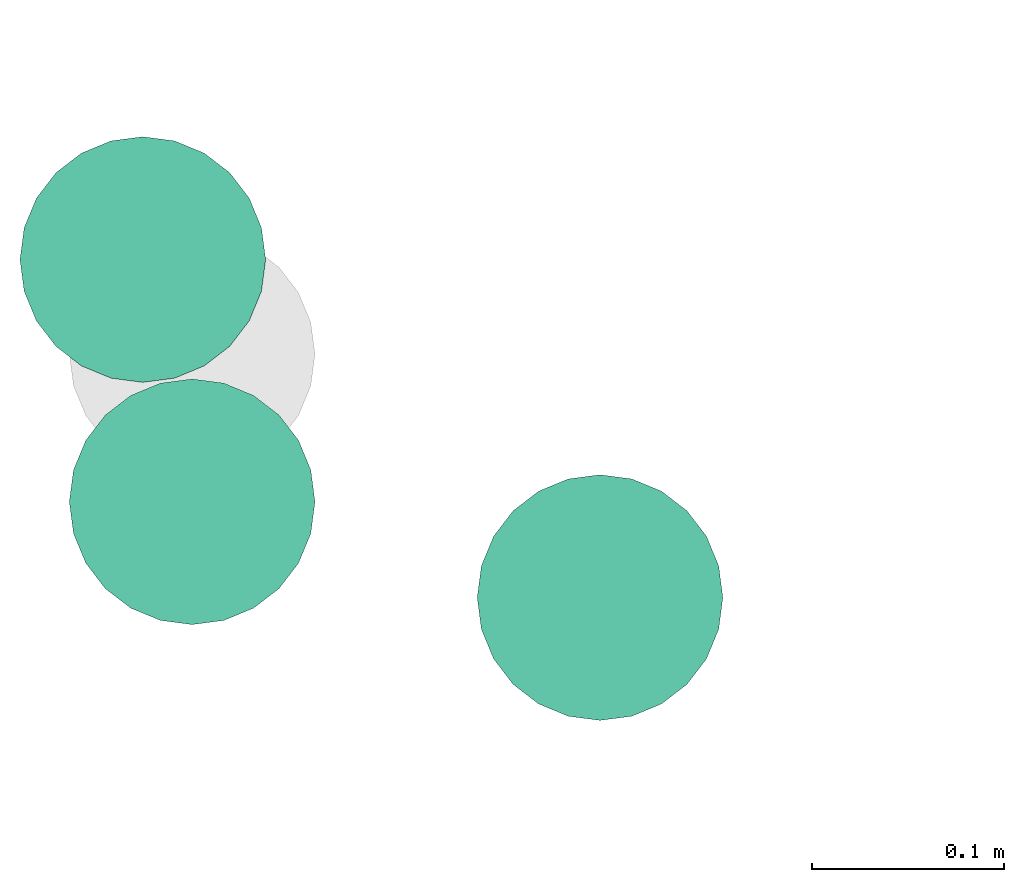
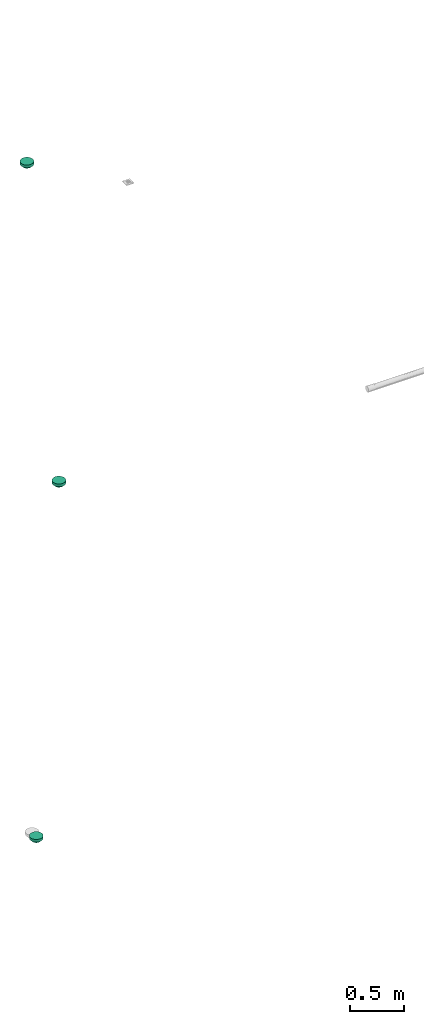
# One storey, part 50 of 153: 3 flow terminals.
"""IFC2X3 building model written with IfcOpenShell, lengths in metres."""

from ifc_helpers import new_model, entity, si_unit, converted_unit, derived_unit, direction, frame, origin, place, context, subcontext, project, spatial, faceted_brep, source, transform, mapped, type_object, type_shapes, element, save


model = new_model("IFC2X3")

# Units and contexts
model_context = context("Model", 3, precision=1e-05, world=origin(), true_north=direction((6.12303176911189e-17, 1.0)))
body_context = subcontext(model_context, "Body", "Model", "MODEL_VIEW")
ifc_project = project(units=[si_unit("LENGTHUNIT", "METRE"), si_unit("AREAUNIT", "SQUARE_METRE"), si_unit("VOLUMEUNIT", "CUBIC_METRE"), converted_unit("PLANEANGLEUNIT", "DEGREE", entity("IfcRatioMeasure", 0.0174532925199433), si_unit("PLANEANGLEUNIT", "RADIAN"), dimensions=[0, 0, 0, 0, 0, 0, 0]), si_unit("MASSUNIT", "GRAM", prefix="KILO"), derived_unit("MASSDENSITYUNIT", [(si_unit("MASSUNIT", "GRAM", prefix="KILO"), 1), (si_unit("LENGTHUNIT", "METRE"), -3)]), si_unit("TIMEUNIT", "SECOND"), si_unit("FREQUENCYUNIT", "HERTZ"), si_unit("THERMODYNAMICTEMPERATUREUNIT", "DEGREE_CELSIUS"), derived_unit("THERMALTRANSMITTANCEUNIT", [(si_unit("MASSUNIT", "GRAM", prefix="KILO"), 1), (si_unit("THERMODYNAMICTEMPERATUREUNIT", "KELVIN"), -1), (si_unit("TIMEUNIT", "SECOND"), -3)]), derived_unit("VOLUMETRICFLOWRATEUNIT", [(si_unit("LENGTHUNIT", "METRE"), 3), (si_unit("TIMEUNIT", "SECOND"), -1)]), si_unit("ELECTRICCURRENTUNIT", "AMPERE"), si_unit("ELECTRICVOLTAGEUNIT", "VOLT"), si_unit("POWERUNIT", "WATT"), si_unit("FORCEUNIT", "NEWTON"), si_unit("ILLUMINANCEUNIT", "LUX"), si_unit("LUMINOUSFLUXUNIT", "LUMEN"), si_unit("LUMINOUSINTENSITYUNIT", "CANDELA"), derived_unit("USERDEFINED", [(si_unit("MASSUNIT", "GRAM", prefix="KILO"), -1), (si_unit("LENGTHUNIT", "METRE"), -2), (si_unit("TIMEUNIT", "SECOND"), 3), (si_unit("LUMINOUSFLUXUNIT", "LUMEN"), 1)]), derived_unit("LINEARVELOCITYUNIT", [(si_unit("LENGTHUNIT", "METRE"), 1), (si_unit("TIMEUNIT", "SECOND"), -1)]), si_unit("PRESSUREUNIT", "PASCAL"), derived_unit("USERDEFINED", [(si_unit("LENGTHUNIT", "METRE"), -2), (si_unit("MASSUNIT", "GRAM", prefix="KILO"), 1), (si_unit("TIMEUNIT", "SECOND"), -2)])], contexts=[model_context])

# Site, building, storey
site_placement = place(None, origin())
site = spatial("IfcSite", under=ifc_project, at=site_placement, Name="Default", CompositionType="ELEMENT")
building_placement = place(site_placement, origin())
building = spatial("IfcBuilding", under=site, at=building_placement, CompositionType="ELEMENT")
storey_placement = place(building_placement, frame((0.0, 0.0, -4.62)))
storey = spatial("IfcBuildingStorey", under=building, at=storey_placement, Name="S02", CompositionType="ELEMENT", Elevation=-4.62)

# Flow terminals
light_fixture_type = type_object("IfcLightFixtureType", Name="Détecteur 360°", PredefinedType="NOTDEFINED")
shared_shape = source(origin(), body_context, "Body", "Brep", [
    faceted_brep([(0.0, -0.0397165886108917, 0.0531256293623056), (0.0, -0.034524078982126, 0.0563702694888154), (-0.0175153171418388, -0.0435914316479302, 0.0478512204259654), (-0.0194029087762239, -0.000878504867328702, 0.0644483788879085), (0.0, 0.0, 0.0669999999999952), (0.0, 0.00603476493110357, 0.0659648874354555), (-0.0174057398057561, -0.0159851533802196, 0.0630502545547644), (-0.0366619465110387, -0.0127227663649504, 0.0549213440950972), (-0.026998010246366, -0.0195753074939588, 0.0584711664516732), (-0.0202403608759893, -0.0335607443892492, 0.054639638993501), (-0.0359767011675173, -0.0348394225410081, 0.0444249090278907), (-0.0276843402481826, -0.0401006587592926, 0.0459804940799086), (-0.0133088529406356, -0.0517577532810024, 0.0400582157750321), (-0.0172617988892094, -0.0486391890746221, 0.042533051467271), (-0.0256912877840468, -0.0533485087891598, 0.0299999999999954), (-0.0462941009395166, -0.0369183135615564, 0.0299999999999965), (0.0, -0.0241390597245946, 0.0628595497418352), (-0.0186245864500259, -0.0267295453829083, 0.0589100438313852), (-0.0139070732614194, -0.0374370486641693, 0.0540817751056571), (0.0, 0.0449090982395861, 0.049880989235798), (-0.0172618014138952, 0.0486391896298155, 0.0425330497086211), (0.0, 0.0397165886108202, 0.0531256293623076), (-0.0186245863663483, 0.0267295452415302, 0.0589100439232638), (-0.0202403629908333, 0.0335607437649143, 0.054639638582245), (-0.0353547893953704, 0.0284533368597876, 0.0494330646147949), (0.0, 0.0120695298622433, 0.0649297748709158), (-0.0249385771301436, 0.0204731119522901, 0.0590841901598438), (-0.0191783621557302, 0.0150189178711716, 0.062775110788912), (-0.0465404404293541, -0.0196510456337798, 0.0438984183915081), (-0.052010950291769, -0.0250471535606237, 0.029999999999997), (-0.0453471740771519, -0.0286501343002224, 0.0397747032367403), (-0.0365036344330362, -0.0226255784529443, 0.0516441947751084), (-0.0175153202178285, 0.0435914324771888, 0.0478512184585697), (-0.0359926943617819, 0.0451334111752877, 0.0299999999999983), (-0.0276843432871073, 0.0401006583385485, 0.0459804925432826), (-0.00849704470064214, -0.0572729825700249, 0.0299999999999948), (0.0, -0.0592123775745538, 0.0299999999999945), (0.0, -0.0545512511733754, 0.0364787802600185), (0.0, -0.049890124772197, 0.0429575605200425), (-0.0169940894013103, -0.055333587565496, 0.0299999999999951), (-0.0359767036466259, 0.0348394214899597, 0.0444249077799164), (-0.025691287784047, 0.0533485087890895, 0.0299999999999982), (-0.0308419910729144, 0.0492409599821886, 0.0299999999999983), (-0.0130265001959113, 0.0514867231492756, 0.040526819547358), (-0.0169940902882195, 0.0553335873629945, 0.029999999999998), (0.0, 0.0498901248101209, 0.0429575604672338), (-0.0353547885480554, -0.0284533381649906, 0.0494330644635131), (0.0, 0.0181042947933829, 0.0638946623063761), (-0.0473669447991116, -0.00128092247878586, 0.0474310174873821), (-0.0485435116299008, -0.00908961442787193, 0.0452357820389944), (-0.0366597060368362, -0.0032867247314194, 0.0563153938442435), (-0.0226425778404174, -0.0107553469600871, 0.0624973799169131), (0.0, -0.00603476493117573, 0.0659648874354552), (0.0, 0.0293315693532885, 0.0596149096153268), (-0.0139070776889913, 0.0374370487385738, 0.0540817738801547), (-0.0449600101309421, 0.018422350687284, 0.0461366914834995), (-0.0453471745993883, 0.0286501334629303, 0.0397747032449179), (-0.0476906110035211, 0.00670602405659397, 0.0466053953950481), (-0.0577277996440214, 0.0131759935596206, 0.0299999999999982), (-0.0577277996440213, 0.00658799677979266, 0.029999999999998), (-0.0577277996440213, 0.0, 0.0299999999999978), (0.0, -0.0449090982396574, 0.0498809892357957), (-0.0308419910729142, -0.049240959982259, 0.0299999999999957), (-0.0359926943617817, -0.0451334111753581, 0.029999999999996), (0.0, 0.0345240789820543, 0.0563702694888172), (-0.0411433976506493, 0.0410258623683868, 0.0299999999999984), (-0.0462941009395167, 0.0369183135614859, 0.0299999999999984), (-0.0491525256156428, -0.03098273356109, 0.0299999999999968), (-0.0577277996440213, -0.0131759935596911, 0.0299999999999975), (0.0, -0.018104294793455, 0.0638946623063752), (-0.0377433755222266, 0.0044838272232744, 0.0554913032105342), (-0.0577277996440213, -0.00658799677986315, 0.0299999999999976), (-0.0385149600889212, 0.0124844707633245, 0.0536578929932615), (-0.0491525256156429, 0.0309827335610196, 0.0299999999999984), (-0.0548693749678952, 0.0191115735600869, 0.0299999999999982), (0.0, 0.0241390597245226, 0.0628595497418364), (-0.014625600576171, 0.0100436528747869, 0.0649170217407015), (-0.0271766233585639, 0.00920278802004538, 0.0609170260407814), (0.0, -0.0120695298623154, 0.0649297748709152), (-0.0520109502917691, 0.0250471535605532, 0.0299999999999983), (-0.0411433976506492, -0.0410258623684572, 0.0299999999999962), (-0.0548693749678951, -0.0191115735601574, 0.0299999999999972), (0.0, -0.0293315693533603, 0.0596149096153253), (0.0, 0.0545512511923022, 0.0364787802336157), (0.0, 0.0592123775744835, 0.0299999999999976), (-0.00849704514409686, 0.057272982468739, 0.0299999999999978), (-0.0127455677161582, 0.0563032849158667, 0.0299999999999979), (-0.0213426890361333, 0.054341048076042, 0.0299999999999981), (0.0175153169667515, 0.0435914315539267, 0.0478512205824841), (0.0194029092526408, 0.000878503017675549, 0.0644483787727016), (0.017405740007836, 0.0159851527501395, 0.0630502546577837), (0.0366619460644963, 0.012722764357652, 0.0549213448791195), (0.0269980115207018, 0.0195753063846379, 0.0584711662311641), (0.0202403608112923, 0.0335607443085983, 0.0546396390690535), (0.0359767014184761, 0.0348394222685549, 0.0444249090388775), (0.0276843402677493, 0.0401006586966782, 0.0459804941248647), (0.0133088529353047, 0.0517577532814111, 0.0400582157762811), (0.0172617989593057, 0.0486391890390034, 0.0425330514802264), (0.0256912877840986, 0.0533485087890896, 0.0299999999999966), (0.0462941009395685, 0.0369183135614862, 0.0299999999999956), (0.00849704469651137, 0.0572729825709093, 0.0299999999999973), (0.0169940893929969, 0.0553335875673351, 0.029999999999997), (0.0172617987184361, -0.0486391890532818, 0.0425330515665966), (0.025691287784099, -0.0533485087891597, 0.0299999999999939), (0.0308419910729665, -0.0492409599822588, 0.0299999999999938), (0.0175153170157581, -0.0435914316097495, 0.0478512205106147), (0.0186245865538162, -0.0267295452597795, 0.0589100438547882), (0.0202403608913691, -0.03356074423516, 0.0546396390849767), (0.0353547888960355, -0.0284533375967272, 0.0494330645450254), (0.0249385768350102, -0.0204731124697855, 0.0590841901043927), (0.0191783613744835, -0.0150189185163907, 0.062775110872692), (0.0465404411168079, 0.0196510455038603, 0.0438984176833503), (0.0577277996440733, 0.0131759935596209, 0.0299999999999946), (0.0548693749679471, 0.0191115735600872, 0.0299999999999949), (0.0520109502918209, 0.0250471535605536, 0.0299999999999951), (0.0365036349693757, 0.0226255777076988, 0.0516441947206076), (0.0186245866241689, 0.0267295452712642, 0.0589100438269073), (0.0359926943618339, -0.0451334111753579, 0.0299999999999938), (0.0276843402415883, -0.0401006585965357, 0.0459804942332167), (0.0139070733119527, 0.0374370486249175, 0.0540817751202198), (0.0359767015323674, -0.0348394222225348, 0.044424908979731), (0.0226425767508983, 0.0107553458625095, 0.0624973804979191), (0.0169940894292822, -0.0553335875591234, 0.0299999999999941), (0.0130264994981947, -0.0514867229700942, 0.0405268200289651), (0.0453471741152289, 0.0286501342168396, 0.039774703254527), (0.0353547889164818, 0.0284533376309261, 0.0494330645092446), (0.0473669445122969, 0.00128092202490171, 0.0474310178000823), (0.0485435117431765, 0.00908961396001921, 0.0452357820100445), (0.0366597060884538, 0.00328672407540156, 0.0563153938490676), (0.0139070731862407, -0.0374370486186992, 0.0540817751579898), (0.0449600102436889, -0.018422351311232, 0.0461366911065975), (0.0453471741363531, -0.0286501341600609, 0.039774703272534), (0.0476906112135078, -0.00670602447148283, 0.046605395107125), (0.0577277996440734, -0.0131759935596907, 0.0299999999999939), (0.0577277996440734, -0.00658799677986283, 0.0299999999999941), (0.0577277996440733, 0.0, 0.0299999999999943), (0.0308419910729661, 0.0492409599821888, 0.0299999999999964), (0.0359926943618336, 0.0451334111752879, 0.0299999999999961), (0.0411433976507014, -0.041025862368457, 0.0299999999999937), (0.0462941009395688, -0.0369183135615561, 0.0299999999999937), (0.0491525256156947, 0.0309827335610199, 0.0299999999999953), (0.037743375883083, -0.00448382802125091, 0.0554913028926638), (0.0577277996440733, 0.00658799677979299, 0.0299999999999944), (0.0385149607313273, -0.0124844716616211, 0.0536578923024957), (0.049152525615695, -0.0309827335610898, 0.0299999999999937), (0.0548693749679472, -0.0191115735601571, 0.0299999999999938), (0.0146256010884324, -0.0100436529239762, 0.0649170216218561), (0.0271766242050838, -0.00920278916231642, 0.0609170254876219), (0.0520109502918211, -0.0250471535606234, 0.0299999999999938), (0.041143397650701, 0.0410258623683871, 0.0299999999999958), (0.00849704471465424, -0.0572729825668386, 0.0299999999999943), (0.0127455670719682, -0.056303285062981, 0.0299999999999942), (0.0213426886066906, -0.0543410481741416, 0.029999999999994), (0.0, 0.0, 0.0299999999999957)], [[[0, 1, 2]], [[3, 4, 5]], [[6, 7, 8]], [[9, 10, 11]], [[12, 13, 14]], [[10, 15, 11]], [[9, 16, 17]], [[18, 9, 11]], [[19, 20, 21]], [[22, 23, 24]], [[25, 26, 27]], [[28, 29, 30]], [[8, 31, 17]], [[32, 33, 34]], [[35, 36, 37, 38, 39]], [[23, 40, 24]], [[20, 41, 42]], [[19, 43, 20]], [[44, 43, 45]], [[20, 32, 21]], [[30, 10, 46]], [[22, 26, 47]], [[48, 49, 50]], [[3, 51, 52]], [[53, 54, 23]], [[55, 24, 56]], [[57, 58, 59, 60]], [[13, 61, 0]], [[13, 0, 2]], [[2, 62, 13]], [[18, 2, 1]], [[2, 11, 63]], [[32, 64, 21]], [[32, 42, 33]], [[34, 33, 65, 66]], [[20, 42, 32]], [[54, 32, 34]], [[28, 30, 31]], [[10, 67, 15]], [[49, 68, 28]], [[8, 17, 69]], [[7, 6, 51]], [[28, 31, 7]], [[57, 48, 70]], [[58, 57, 55]], [[48, 71, 49]], [[70, 48, 50]], [[3, 50, 51]], [[55, 26, 24]], [[72, 57, 70]], [[26, 55, 72]], [[56, 40, 73]], [[56, 74, 55]], [[47, 75, 22]], [[52, 4, 3]], [[7, 50, 49]], [[5, 76, 3]], [[70, 3, 77]], [[51, 78, 52]], [[26, 25, 47]], [[76, 25, 27]], [[23, 22, 75]], [[26, 22, 24]], [[53, 64, 54]], [[23, 34, 40]], [[66, 40, 34]], [[40, 66, 73]], [[56, 73, 79, 74]], [[72, 27, 26]], [[40, 56, 24]], [[23, 75, 53]], [[69, 17, 16]], [[78, 6, 69]], [[46, 10, 9]], [[46, 9, 17]], [[50, 7, 51]], [[30, 29, 67]], [[80, 63, 11, 15]], [[28, 68, 81, 29]], [[10, 30, 67]], [[30, 46, 31]], [[82, 18, 1]], [[82, 16, 9]], [[28, 7, 49]], [[12, 39, 38]], [[61, 13, 12]], [[83, 84, 85, 86, 44, 45]], [[43, 41, 20]], [[44, 87, 41, 43]], [[32, 54, 64]], [[23, 54, 34]], [[9, 18, 82]], [[2, 18, 11]], [[39, 12, 14]], [[38, 61, 12]], [[62, 2, 63]], [[62, 14, 13]], [[17, 31, 46]], [[7, 31, 8]], [[48, 60, 71]], [[71, 68, 49]], [[60, 48, 57]], [[3, 70, 50]], [[72, 70, 77]], [[72, 77, 27]], [[55, 57, 72]], [[74, 58, 55]], [[76, 27, 77]], [[3, 76, 77]], [[25, 76, 5]], [[69, 6, 8]], [[78, 51, 6]], [[45, 43, 19]], [[21, 64, 88]], [[89, 4, 52]], [[90, 91, 92]], [[93, 94, 95]], [[96, 97, 98]], [[94, 99, 95]], [[100, 84, 83, 45, 101]], [[102, 103, 104]], [[102, 105, 0]], [[106, 107, 108]], [[78, 109, 110]], [[111, 112, 113, 114]], [[92, 115, 116]], [[105, 117, 118]], [[119, 93, 95]], [[107, 120, 108]], [[89, 121, 5]], [[122, 123, 38]], [[61, 123, 102]], [[93, 75, 116]], [[124, 94, 125]], [[106, 109, 69]], [[126, 127, 128]], [[61, 102, 0]], [[82, 129, 107]], [[130, 108, 131]], [[132, 133, 134, 135]], [[97, 19, 21]], [[97, 21, 88]], [[88, 136, 97]], [[119, 88, 64]], [[88, 95, 137]], [[105, 1, 0]], [[105, 104, 117]], [[118, 117, 138, 139]], [[102, 104, 105]], [[129, 105, 118]], [[111, 124, 115]], [[94, 140, 99]], [[127, 112, 111]], [[92, 116, 47]], [[91, 90, 121]], [[111, 115, 91]], [[132, 126, 141]], [[133, 132, 130]], [[126, 142, 127]], [[141, 126, 128]], [[89, 128, 121]], [[130, 109, 108]], [[143, 132, 141]], [[109, 130, 143]], [[131, 120, 144]], [[131, 145, 130]], [[69, 16, 106]], [[5, 4, 89]], [[91, 128, 127]], [[52, 146, 89]], [[141, 89, 147]], [[121, 25, 5]], [[109, 78, 69]], [[146, 78, 110]], [[107, 106, 16]], [[109, 106, 108]], [[82, 1, 129]], [[107, 118, 120]], [[139, 120, 118]], [[120, 139, 144]], [[131, 144, 148, 145]], [[143, 110, 109]], [[120, 131, 108]], [[107, 16, 82]], [[47, 116, 75]], [[25, 90, 47]], [[125, 94, 93]], [[125, 93, 116]], [[128, 91, 121]], [[124, 114, 140]], [[149, 137, 95, 99]], [[111, 114, 124]], [[94, 124, 140]], [[124, 125, 115]], [[53, 119, 64]], [[53, 75, 93]], [[111, 91, 127]], [[96, 101, 45]], [[19, 97, 96]], [[37, 36, 150, 151, 122, 38]], [[123, 103, 102]], [[122, 152, 103, 123]], [[105, 129, 1]], [[107, 129, 118]], [[93, 119, 53]], [[88, 119, 95]], [[101, 96, 98]], [[45, 19, 96]], [[136, 88, 137]], [[136, 98, 97]], [[116, 115, 125]], [[91, 115, 92]], [[126, 135, 142]], [[142, 112, 127]], [[135, 126, 132]], [[89, 141, 128]], [[143, 141, 147]], [[143, 147, 110]], [[130, 132, 143]], [[145, 133, 130]], [[146, 110, 147]], [[89, 146, 147]], [[78, 146, 52]], [[47, 90, 92]], [[25, 121, 90]], [[38, 123, 61]], [[153, 66, 65]], [[153, 65, 33]], [[153, 33, 42]], [[153, 42, 41]], [[153, 41, 87]], [[153, 73, 66]], [[153, 79, 73]], [[153, 74, 79]], [[153, 58, 74]], [[153, 87, 44]], [[153, 44, 86]], [[153, 86, 85]], [[153, 85, 84]], [[153, 84, 100]], [[153, 59, 58]], [[153, 60, 59]], [[153, 71, 60]], [[153, 68, 71]], [[153, 81, 68]], [[153, 29, 81]], [[153, 67, 29]], [[153, 15, 67]], [[153, 80, 15]], [[153, 63, 80]], [[153, 62, 63]], [[153, 14, 62]], [[153, 39, 14]], [[153, 35, 39]], [[153, 36, 35]], [[153, 100, 101]], [[153, 101, 98]], [[153, 98, 136]], [[153, 136, 137]], [[153, 137, 149]], [[153, 149, 99]], [[153, 99, 140]], [[153, 140, 114]], [[153, 114, 113]], [[153, 113, 112]], [[153, 112, 142]], [[153, 150, 36]], [[153, 151, 150]], [[153, 122, 151]], [[153, 152, 122]], [[153, 103, 152]], [[153, 104, 103]], [[153, 117, 104]], [[153, 138, 117]], [[153, 139, 138]], [[153, 144, 139]], [[153, 148, 144]], [[153, 145, 148]], [[153, 133, 145]], [[153, 142, 135]], [[153, 135, 134]], [[153, 134, 133]]]),
    faceted_brep([(0.0165644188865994, -0.0618192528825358, 0.029999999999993), (0.0320000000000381, -0.0554256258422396, 0.0299999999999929), (0.0452548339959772, -0.0452548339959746, 0.0299999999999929), (0.0554256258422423, -0.0320000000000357, 0.029999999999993), (0.0618192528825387, -0.016564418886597, 0.0299999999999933), (0.0640000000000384, 0.0, 0.0299999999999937), (0.0618192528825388, 0.016564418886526, 0.0299999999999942), (0.0554256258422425, 0.0319999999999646, 0.0299999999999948), (0.0452548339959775, 0.0452548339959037, 0.0299999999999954), (0.0320000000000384, 0.0554256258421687, 0.0299999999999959), (0.0165644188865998, 0.061819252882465, 0.0299999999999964), (0.0, 0.0639999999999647, 0.0299999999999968), (-0.0165644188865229, 0.061819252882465, 0.0299999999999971), (-0.0319999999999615, 0.0554256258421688, 0.0299999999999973), (-0.0452548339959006, 0.0452548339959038, 0.0299999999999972), (-0.0554256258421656, 0.0319999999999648, 0.0299999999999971), (-0.0618192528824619, 0.0165644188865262, 0.0299999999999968), (-0.0639999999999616, 0.0, 0.0299999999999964), (-0.061819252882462, -0.0165644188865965, 0.0299999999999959), (-0.0554256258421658, -0.0320000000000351, 0.0299999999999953), (-0.0452548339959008, -0.0452548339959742, 0.0299999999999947), (-0.0319999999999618, -0.0554256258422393, 0.0299999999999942), (-0.0165644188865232, -0.0618192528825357, 0.0299999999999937), (0.0, -0.0640000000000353, 0.0299999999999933), (0.0165644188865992, 0.0618192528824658, 0.0), (0.0320000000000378, 0.0554256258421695, 0.0), (0.0452548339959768, 0.0452548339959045, 0.0), (0.0554256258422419, 0.0319999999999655, 0.0), (0.0618192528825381, 0.0165644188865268, 0.0), (0.0640000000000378, 0.0, 0.0), (0.061819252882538, -0.0165644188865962, 0.0), (0.0554256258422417, -0.0320000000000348, 0.0), (0.0452548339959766, -0.0452548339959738, 0.0), (0.0320000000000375, -0.0554256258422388, 0.0), (0.0165644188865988, -0.061819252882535, 0.0), (0.0, -0.0640000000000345, 0.0), (-0.0165644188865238, -0.0618192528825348, 0.0), (-0.0319999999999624, -0.0554256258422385, 0.0), (-0.0452548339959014, -0.0452548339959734, 0.0), (-0.0554256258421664, -0.0320000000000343, 0.0), (-0.0618192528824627, -0.0165644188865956, 0.0), (-0.0639999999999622, 0.0, 0.0), (-0.0618192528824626, 0.016564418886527, 0.0), (-0.0554256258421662, 0.0319999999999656, 0.0), (-0.0452548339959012, 0.0452548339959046, 0.0), (-0.0319999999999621, 0.0554256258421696, 0.0), (-0.0165644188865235, 0.0618192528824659, 0.0), (0.0, 0.0639999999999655, 0.0)], [[[0, 1, 2, 3, 4, 5, 6, 7, 8, 9, 10, 11, 12, 13, 14, 15, 16, 17, 18, 19, 20, 21, 22, 23]], [[24, 25, 26, 27, 28, 29, 30, 31, 32, 33, 34, 35, 36, 37, 38, 39, 40, 41, 42, 43, 44, 45, 46, 47]], [[40, 18, 17, 41]], [[39, 19, 18, 40]], [[21, 20, 38, 37]], [[39, 38, 20, 19]], [[22, 21, 37, 36]], [[23, 22, 36, 35]], [[34, 0, 23, 35]], [[33, 1, 0, 34]], [[3, 2, 32, 31]], [[33, 32, 2, 1]], [[4, 3, 31, 30]], [[5, 4, 30, 29]], [[28, 6, 5, 29]], [[27, 7, 6, 28]], [[9, 8, 26, 25]], [[27, 26, 8, 7]], [[10, 9, 25, 24]], [[11, 10, 24, 47]], [[46, 12, 11, 47]], [[45, 13, 12, 46]], [[42, 41, 17, 16]], [[44, 14, 13, 45]], [[43, 15, 14, 44]], [[43, 42, 16, 15]]]),
])
type_shapes(light_fixture_type, [shared_shape])
for number, where, z_axis, x_axis in (
    (1, (25.5154544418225, -183.995539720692, 4.62), (0.0, 0.0, -1.0), (1.0, 0.0, 0.0)),
    (2, (25.7280036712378, -184.045464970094, 8.569), (0.0, 0.0, -1.0), (1.0, 0.0, 0.0)),
    (3, (25.4897436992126, -183.86931717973, 12.129), (0.0, 0.0, -1.0), (1.0, 0.0, 0.0)),
):
    element("IfcFlowTerminal", number, at=place(storey_placement, frame(where, z_axis=z_axis, x_axis=x_axis)), inside=storey, type_object=light_fixture_type, Name="INT - Détecteur 360°:Détecteur 360°", ObjectType="INT - Détecteur 360°:Détecteur 360°", context=body_context, shape_type="MappedRepresentation", body=[
        mapped(shared_shape, transform((0.0, 0.0, 0.0), scale=1.0)),
    ])

save(model, "model.ifc")
